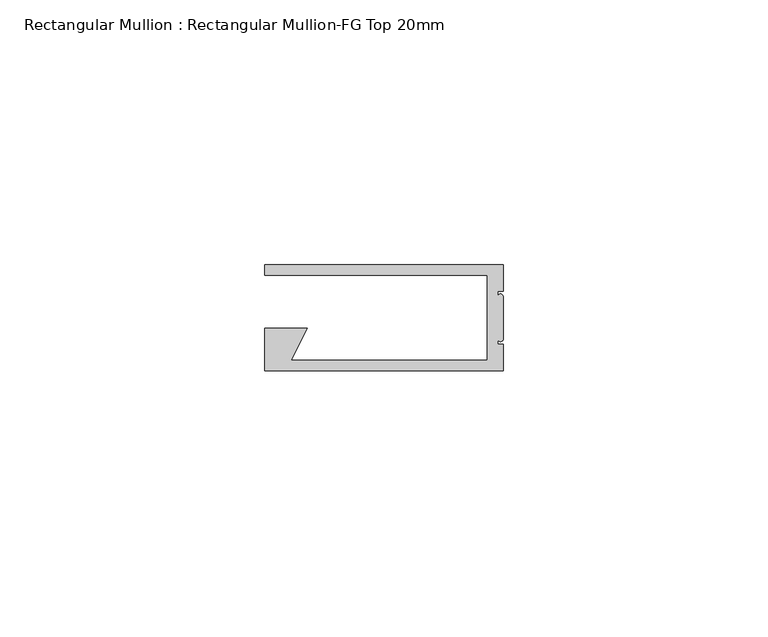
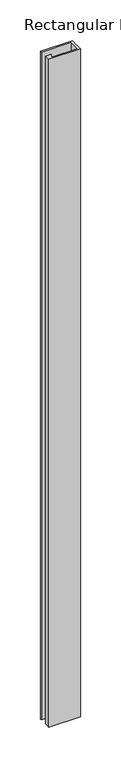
"""IFC4 building model written with IfcOpenShell, lengths in millimetres: member geometry, Rectangular Mullion : Rectangular Mullion-FG Top 20mm."""

import ifcopenshell
import ifcopenshell.guid

model = None  # the IFC model being written
_history = None  # IfcOwnerHistory: only IFC2X3 demands one
_inside = {}  # id of a spatial element -> (the spatial element, [elements in it])
_under = {}  # id of a project, library or spatial element -> (it, [spatial elements below it])
_declared = {}  # id of a project -> (the project, [libraries it declares])
_typed = {}  # id of a type object -> (the type object, [elements of that type])
_made_of = {}  # id of a material, layer set ... -> (it, [elements and type objects made of it])


def new_model(schema):
    """Start an empty IFC model of exactly this schema.

    Asked for "IFC4X3", IfcOpenShell would pick the latest addendum, in which some entities
    have other attributes; the version numbers below select the first issue.
    IFC2X3 requires an IfcOwnerHistory on every rooted entity: one is made here for all.
    """
    global model, _history
    if schema == "IFC4X3":
        model = ifcopenshell.file(schema_version=(4, 3, 0, 0))
    else:
        model = ifcopenshell.file(schema=schema)
    _inside.clear()
    _under.clear()
    _declared.clear()
    _typed.clear()
    _made_of.clear()
    _history = None
    if model.schema == "IFC2X3":
        org = make("IfcOrganization", Name="unknown")
        user = make(
            "IfcPersonAndOrganization",
            ThePerson=make("IfcPerson", FamilyName="unknown"),
            TheOrganization=org,
        )
        app = make(
            "IfcApplication",
            ApplicationDeveloper=org,
            Version="unknown",
            ApplicationFullName="unknown",
            ApplicationIdentifier="unknown",
        )
        _history = make(
            "IfcOwnerHistory",
            OwningUser=user,
            OwningApplication=app,
            ChangeAction="ADDED",
            CreationDate=0,
        )
    return model


def make(cls, **values):
    """One entity of the class cls with the attributes given. An attribute that is None is left unset."""
    return model.create_entity(
        cls, **{name: value for name, value in values.items() if value is not None}
    )


def rooted(cls, **values):
    """An entity with a GlobalId (a new one), such as an element, a storey or a relation."""
    return make(cls, GlobalId=ifcopenshell.guid.new(), OwnerHistory=_history, **values)


def si_unit(unit_type, name, prefix=None):
    """IfcSIUnit, for example si_unit("LENGTHUNIT", "METRE", prefix="MILLI")."""
    return make("IfcSIUnit", UnitType=unit_type, Prefix=prefix, Name=name)


def assignment(units):
    """IfcUnitAssignment: the units of a project."""
    return None if units is None else make("IfcUnitAssignment", Units=units)


def point(xyz):
    """IfcCartesianPoint."""
    return None if xyz is None else make("IfcCartesianPoint", Coordinates=xyz)


def direction(xyz):
    """IfcDirection."""
    return None if xyz is None else make("IfcDirection", DirectionRatios=xyz)


def frame(location, z_axis=None, x_axis=None):
    """IfcAxis2Placement3D, a coordinate frame: its origin and axes. An axis left out is left unset."""
    return make(
        "IfcAxis2Placement3D",
        Location=point(location),
        Axis=direction(z_axis),
        RefDirection=direction(x_axis),
    )


def origin():
    """The frame at (0, 0, 0) with its axes left unset."""
    return frame((0.0, 0.0, 0.0))


def place(relative_to, where):
    """IfcLocalPlacement: puts the frame where relative to a parent placement (None: the world)."""
    return make(
        "IfcLocalPlacement", PlacementRelTo=relative_to, RelativePlacement=where
    )


def context(
    kind, dimensions, precision=None, world=None, true_north=None, identifier=None
):
    """IfcGeometricRepresentationContext, for example the 3D "Model" context."""
    return make(
        "IfcGeometricRepresentationContext",
        ContextIdentifier=identifier,
        ContextType=kind,
        CoordinateSpaceDimension=dimensions,
        Precision=precision,
        WorldCoordinateSystem=world,
        TrueNorth=true_north,
    )


def project(units=None, contexts=None):
    """IfcProject with its units and contexts."""
    return rooted(
        "IfcProject",
        Name="project",
        RepresentationContexts=contexts,
        UnitsInContext=assignment(units),
    )


def spatial(cls, under=None, at=None, **own):
    """A site, building, storey or space (cls), placed at a placement, below another one or the project."""
    s = rooted(cls, ObjectPlacement=at, **own)
    if under is not None:
        _under.setdefault(under.id(), (under, []))[1].append(s)
    return s


def circle_curve(where, radius):
    """IfcCircle in the frame where."""
    return make("IfcCircle", Position=where, Radius=radius)


def shape(context_of_items, identifier, shape_type, items):
    """IfcShapeRepresentation: the items that make up one representation, for example the "Body"."""
    return make(
        "IfcShapeRepresentation",
        ContextOfItems=context_of_items,
        RepresentationIdentifier=identifier,
        RepresentationType=shape_type,
        Items=items,
    )


def source(mapping_origin, context_of_items, identifier, shape_type, items):
    """IfcRepresentationMap: a shape defined once, which mapped items show again and again."""
    return make(
        "IfcRepresentationMap",
        MappingOrigin=mapping_origin,
        MappedRepresentation=shape(context_of_items, identifier, shape_type, items),
    )


def transform(
    local_origin,
    x_axis=None,
    y_axis=None,
    z_axis=None,
    scale=None,
    scale2=None,
    scale3=None,
    uniform=True,
):
    """IfcCartesianTransformationOperator3D, or its non-uniform kind. x_axis, y_axis, z_axis: its Axis1, 2, 3."""
    if uniform:
        return make(
            "IfcCartesianTransformationOperator3D",
            Axis1=direction(x_axis),
            Axis2=direction(y_axis),
            LocalOrigin=point(local_origin),
            Scale=scale,
            Axis3=direction(z_axis),
        )
    return make(
        "IfcCartesianTransformationOperator3DnonUniform",
        Axis1=direction(x_axis),
        Axis2=direction(y_axis),
        LocalOrigin=point(local_origin),
        Scale=scale,
        Axis3=direction(z_axis),
        Scale2=scale2,
        Scale3=scale3,
    )


def mapped(mapping_source, mapping_target):
    """IfcMappedItem: shows the shape of a source again, moved by a transform."""
    return make(
        "IfcMappedItem", MappingSource=mapping_source, MappingTarget=mapping_target
    )


def made_of(thing, what):
    """Note that an element or type object is made of a material, layer set ...; save() writes the relation."""
    if what is not None:
        _made_of.setdefault(what.id(), (what, []))[1].append(thing)
    return thing


def element(
    cls,
    number,
    at=None,
    inside=None,
    cuts=None,
    type_object=None,
    material=None,
    context=None,
    identifier="Body",
    shape_type=None,
    held_by="IfcProductDefinitionShape",
    body=None,
    shapes=None,
    **own,
):
    """One element of the class cls, such as IfcWall. Its Tag is "e" and its number.

    at: its placement. inside: the storey or other place that contains it. cuts: it is an
    opening in that element (IfcRelVoidsElement). A single representation is given by context,
    identifier, shape_type and body (its items); several are given by shapes. held_by: the class
    of the entity that holds the representations. save() writes the other relations.
    """
    e = rooted(cls, Tag="e%d" % number, ObjectPlacement=at, **own)
    if body is not None:
        shapes = [shape(context, identifier, shape_type, body)]
    if shapes is not None:
        e.Representation = make(held_by, Representations=shapes)
    if inside is not None:
        _inside.setdefault(inside.id(), (inside, []))[1].append(e)
    if cuts is not None:
        rooted(
            "IfcRelVoidsElement", RelatingBuildingElement=cuts, RelatedOpeningElement=e
        )
    if type_object is not None:
        _typed.setdefault(type_object.id(), (type_object, []))[1].append(e)
    return made_of(e, material)


def aggregate(whole, parts):
    """IfcRelAggregates: a whole, such as a stair, and the parts it consists of."""
    return rooted("IfcRelAggregates", RelatingObject=whole, RelatedObjects=parts)


def save(model, path):
    """Write the relations noted so far, then the file.

    IfcRelAggregates (storeys below a building ...), IfcRelContainedInSpatialStructure (elements
    in a storey), IfcRelDefinesByType, IfcRelAssociatesMaterial and IfcRelDeclares: one each for
    every whole, place, type object, material and project.
    """
    for whole, parts in _under.values():
        aggregate(whole, parts)
    for where, things in _inside.values():
        rooted(
            "IfcRelContainedInSpatialStructure",
            RelatedElements=things,
            RelatingStructure=where,
        )
    for kind, things in _typed.values():
        rooted("IfcRelDefinesByType", RelatedObjects=things, RelatingType=kind)
    for what, things in _made_of.values():
        rooted("IfcRelAssociatesMaterial", RelatedObjects=things, RelatingMaterial=what)
    for by, libraries in _declared.values():
        rooted("IfcRelDeclares", RelatingContext=by, RelatedDefinitions=libraries)
    model.write(path)


def plane_surface(at):
    """IfcPlane: the flat surface through the origin of the frame at, square to its z axis."""
    return make("IfcPlane", Position=at)


def cylinder_surface(at, radius):
    """IfcCylindricalSurface: all points at the distance radius from the z axis of the frame at."""
    return make("IfcCylindricalSurface", Position=at, Radius=radius)


def advanced_brep(points, edges, surfaces, faces):
    """IfcAdvancedBrep: a solid bounded by faces that lie on surfaces and meet in shared edges.

    An edge is (start, end): straight between two places in points (the first is 0);
    or (start, end, curve); or (start, end, curve, False) where it runs against its curve.
    A face is (place in surfaces, loops), or (place, loops, False) where it looks against
    its surface's normal. A loop lists edges by number (the first is 1), with a minus sign
    where the edge is run from its end to its start. The first loop is the outer one.
    """
    corners = [point(p) for p in points]
    vertices = [make("IfcVertexPoint", VertexGeometry=c) for c in corners]
    made = []
    for start, end, *more in edges:
        made.append(
            make(
                "IfcEdgeCurve",
                EdgeStart=vertices[start],
                EdgeEnd=vertices[end],
                EdgeGeometry=more[0] if more else make("IfcPolyline", Points=[corners[start], corners[end]]),
                SameSense=more[1] if len(more) > 1 else True,
            )
        )
    hull = []
    for where, loops, *sense in faces:
        bounds = []
        for j, loop in enumerate(loops):
            ring = [make("IfcOrientedEdge", EdgeElement=made[abs(k) - 1], Orientation=k > 0) for k in loop]
            bounds.append(
                make(
                    "IfcFaceOuterBound" if j == 0 else "IfcFaceBound",
                    Bound=make("IfcEdgeLoop", EdgeList=ring),
                    Orientation=True,
                )
            )
        hull.append(make("IfcAdvancedFace", Bounds=bounds, FaceSurface=surfaces[where], SameSense=sense[0] if sense else True))
    return make("IfcAdvancedBrep", Outer=make("IfcClosedShell", CfsFaces=hull))


def rectangular_mullion_rectangular_mullion_fg_top_20mm_400e5d01(model_context):
    return source(origin(), model_context, "Body", "AdvancedBrep", [
        advanced_brep(
        [(0.0, -5.0, 0.0), (0.0, 0.0, 0.0), (-45.0, 0.0, 0.0), (-45.0, -2.0, 0.0), (-3.0, -2.0, 0.0), (-3.0, -18.0, 0.0), (-40.0, -18.0, 0.0), (-37.0, -12.0, 0.0), (-45.0, -12.0, 0.0), (-45.0, -18.0, 0.0), (-45.0, -20.0, 0.0), (0.0, -20.0, 0.0), (0.0, -15.0, 0.0), (-1.0, -15.0, 0.0), (-1.0, -14.0, 0.0), (0.0, -14.0, 0.0), (0.0, -6.0, 0.0), (-1.0, -6.0, 0.0), (-1.0, -5.0, 0.0), (0.0, -5.0, -1000.0), (-1.0, -5.0, -1000.0), (-1.0, -6.0, -1000.0), (0.0, -6.0, -1000.0), (0.0, -14.0, -1000.0), (-1.0, -14.0, -1000.0), (-1.0, -15.0, -1000.0), (0.0, -15.0, -1000.0), (0.0, -20.0, -1000.0), (-45.0, -20.0, -1000.0), (-45.0, -18.0, -1000.0), (-45.0, -12.0, -1000.0), (-37.0, -12.0, -1000.0), (-40.0, -18.0, -1000.0), (-3.0, -18.0, -1000.0), (-3.0, -2.0, -1000.0), (-45.0, -2.0, -1000.0), (-45.0, 0.0, -1000.0), (0.0, 0.0, -1000.0)],
        [
            (0, 1),
            (1, 2),
            (2, 3),
            (3, 4),
            (4, 5),
            (5, 6),
            (6, 7),
            (7, 8),
            (8, 9),
            (9, 10),
            (10, 11),
            (11, 12),
            (12, 13),
            (13, 14),
            (14, 15, circle_curve(frame((-0.5, -14.0, 0.0), z_axis=(0.0, 0.0, 1.0), x_axis=(1.0, 0.0, 0.0)), 0.5)),
            (15, 16),
            (16, 17, circle_curve(frame((-0.5, -6.0, 0.0), z_axis=(0.0, 0.0, 1.0), x_axis=(1.0, 0.0, 0.0)), 0.5)),
            (17, 18),
            (18, 0),
            (19, 20),
            (20, 21),
            (21, 22, circle_curve(frame((-0.5, -6.0, -1000.0), z_axis=(0.0, 0.0, -1.0), x_axis=(1.0, 0.0, 0.0)), 0.5)),
            (22, 23),
            (23, 24, circle_curve(frame((-0.5, -14.0, -1000.0), z_axis=(0.0, 0.0, -1.0), x_axis=(1.0, 0.0, 0.0)), 0.5)),
            (24, 25),
            (25, 26),
            (26, 27),
            (27, 28),
            (28, 29),
            (29, 30),
            (30, 31),
            (31, 32),
            (32, 33),
            (33, 34),
            (34, 35),
            (35, 36),
            (36, 37),
            (37, 19),
            (0, 19),
            (37, 1),
            (36, 2),
            (35, 3),
            (34, 4),
            (33, 5),
            (32, 6),
            (31, 7),
            (30, 8),
            (29, 9),
            (28, 10),
            (27, 11),
            (26, 12),
            (25, 13),
            (24, 14),
            (23, 15),
            (22, 16),
            (21, 17),
            (20, 18),
        ],
        [
            plane_surface(frame((0.0, -49.244289, 0.0), z_axis=(0.0, 0.0, 1.0), x_axis=(-1.0, 0.0, 0.0))),
            plane_surface(frame((0.0, -49.244289, -1000.0), z_axis=(0.0, 0.0, -1.0), x_axis=(-1.0, 0.0, 0.0))),
            plane_surface(frame((0.0, -5.0, 0.0), z_axis=(1.0, 0.0, 0.0), x_axis=(0.0, 0.0, -1.0))),
            plane_surface(frame((0.0, 0.0, 0.0), z_axis=(0.0, 1.0, 0.0), x_axis=(0.0, 0.0, -1.0))),
            plane_surface(frame((-45.0, 0.0, 0.0), z_axis=(-1.0, 0.0, 0.0), x_axis=(0.0, 0.0, -1.0))),
            plane_surface(frame((-45.0, -2.0, 0.0), z_axis=(0.0, -1.0, 0.0), x_axis=(0.0, 0.0, -1.0))),
            plane_surface(frame((-3.0, -2.0, 0.0), z_axis=(-1.0, 0.0, 0.0), x_axis=(0.0, 0.0, -1.0))),
            plane_surface(frame((-3.0, -18.0, 0.0), z_axis=(0.0, 1.0, 0.0), x_axis=(0.0, 0.0, -1.0))),
            plane_surface(frame((-40.0, -18.0, 0.0), z_axis=(0.8944271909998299, -0.4472135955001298, 0.0), x_axis=(0.0, 0.0, -1.0))),
            plane_surface(frame((-37.0, -12.0, 0.0), z_axis=(0.0, 1.0, 0.0), x_axis=(0.0, 0.0, -1.0))),
            plane_surface(frame((-45.0, -12.0, 0.0), z_axis=(-1.0, 0.0, 0.0), x_axis=(0.0, 0.0, -1.0))),
            plane_surface(frame((-45.0, -18.0, 0.0), z_axis=(-1.0, 0.0, 0.0), x_axis=(0.0, 0.0, -1.0))),
            plane_surface(frame((-45.0, -20.0, 0.0), z_axis=(0.0, -1.0, 0.0), x_axis=(0.0, 0.0, -1.0))),
            plane_surface(frame((0.0, -20.0, 0.0), z_axis=(1.0, 0.0, 0.0), x_axis=(0.0, 0.0, -1.0))),
            plane_surface(frame((0.0, -15.0, 0.0), z_axis=(0.0, 1.0, 0.0), x_axis=(0.0, 0.0, -1.0))),
            plane_surface(frame((-1.0, -15.0, 0.0), z_axis=(1.0, 0.0, 0.0), x_axis=(0.0, 0.0, -1.0))),
            cylinder_surface(frame((-0.5, -14.0, 0.0), z_axis=(0.0, 0.0, 1.0), x_axis=(1.0, 0.0, 0.0)), 0.5),
            plane_surface(frame((0.0, -14.0, 0.0), z_axis=(1.0, 0.0, 0.0), x_axis=(0.0, 0.0, -1.0))),
            cylinder_surface(frame((-0.5, -6.0, 0.0), z_axis=(0.0, 0.0, 1.0), x_axis=(1.0, 0.0, 0.0)), 0.5),
            plane_surface(frame((-1.0, -6.0, 0.0), z_axis=(1.0, 0.0, 0.0), x_axis=(0.0, 0.0, -1.0))),
            plane_surface(frame((-1.0, -5.0, 0.0), z_axis=(0.0, -1.0, 0.0), x_axis=(0.0, 0.0, -1.0))),
        ],
        [
            (0, [[1, 2, 3, 4, 5, 6, 7, 8, 9, 10, 11, 12, 13, 14, 15, 16, 17, 18, 19]]),
            (1, [[20, 21, 22, 23, 24, 25, 26, 27, 28, 29, 30, 31, 32, 33, 34, 35, 36, 37, 38]]),
            (2, [[-1, 39, -38, 40]]),
            (3, [[-2, -40, -37, 41]]),
            (4, [[-3, -41, -36, 42]]),
            (5, [[-4, -42, -35, 43]]),
            (6, [[-5, -43, -34, 44]]),
            (7, [[-6, -44, -33, 45]]),
            (8, [[-7, -45, -32, 46]]),
            (9, [[-8, -46, -31, 47]]),
            (10, [[-9, -47, -30, 48]]),
            (11, [[-10, -48, -29, 49]]),
            (12, [[-11, -49, -28, 50]]),
            (13, [[-12, -50, -27, 51]]),
            (14, [[-13, -51, -26, 52]]),
            (15, [[-14, -52, -25, 53]]),
            (16, [[-15, -53, -24, 54]]),
            (17, [[-16, -54, -23, 55]]),
            (18, [[-17, -55, -22, 56]]),
            (19, [[-18, -56, -21, 57]]),
            (20, [[-19, -57, -20, -39]]),
        ],
    ),
    ])


if __name__ == "__main__":
    model = new_model("IFC4")
    model_context = context("Model", 3, world=origin())
    ifc_project = project(units=[si_unit("LENGTHUNIT", "METRE", prefix="MILLI")], contexts=[model_context])
    site = spatial("IfcSite", under=ifc_project)
    building = spatial("IfcBuilding", under=site)
    placement = place(None, origin())
    rectangular_mullion_rectangular_mullion_fg_top_20mm_shape = rectangular_mullion_rectangular_mullion_fg_top_20mm_400e5d01(model_context)
    element("IfcMember", 1, ObjectType="Rectangular Mullion : Rectangular Mullion-FG Top 20mm", at=placement, inside=building, context=model_context, shape_type="MappedRepresentation", body=[
        mapped(rectangular_mullion_rectangular_mullion_fg_top_20mm_shape, transform((0.0, 0.0, 0.0), x_axis=(1.0, 0.0, 0.0), y_axis=(0.0, 1.0, 0.0), z_axis=(0.0, 0.0, 1.0))),
    ])
    save(model, "model.ifc")
